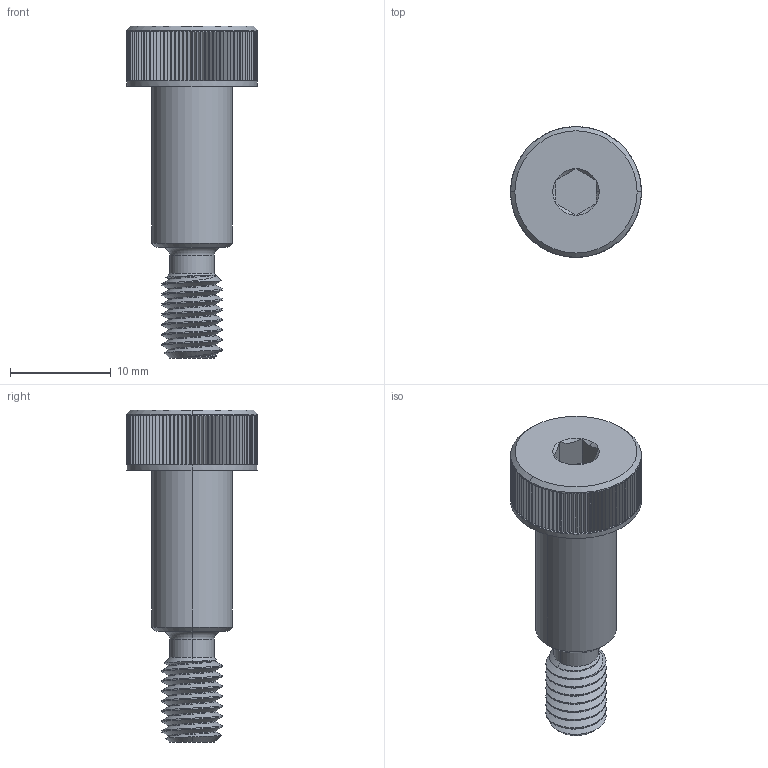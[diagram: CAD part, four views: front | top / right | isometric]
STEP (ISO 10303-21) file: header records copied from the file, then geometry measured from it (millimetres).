
FILE_DESCRIPTION (( 'STEP AP203' ), '1' );
FILE_NAME ('92981A202.STEP', '2018-01-15T14:38:42', ( '' ), ( '' ), 'SwSTEP 2.0', 'SolidWorks 2014', '' );
FILE_SCHEMA (( 'CONFIG_CONTROL_DESIGN' ));
Length unit declared in the file: millimetre
Products named in the file (1): 92981A202
Bounding box: 13 x 13 x 33 mm (x, y, z)
Volume: 1748.9 mm3; surface area: 1408.5 mm2
Topology: 1 solids, 1 shells, 448 faces, 1017 edges, 671 vertices
Faces by surface type: plane 407, cylinder 21, cone 15, bspline 3, torus 2
Entity records: 14304 total; most frequent: CARTESIAN_POINT 4017, DIRECTION 2094, ORIENTED_EDGE 2034, EDGE_CURVE 1017, LINE 736, VECTOR 736, AXIS2_PLACEMENT_3D 679, VERTEX_POINT 671
